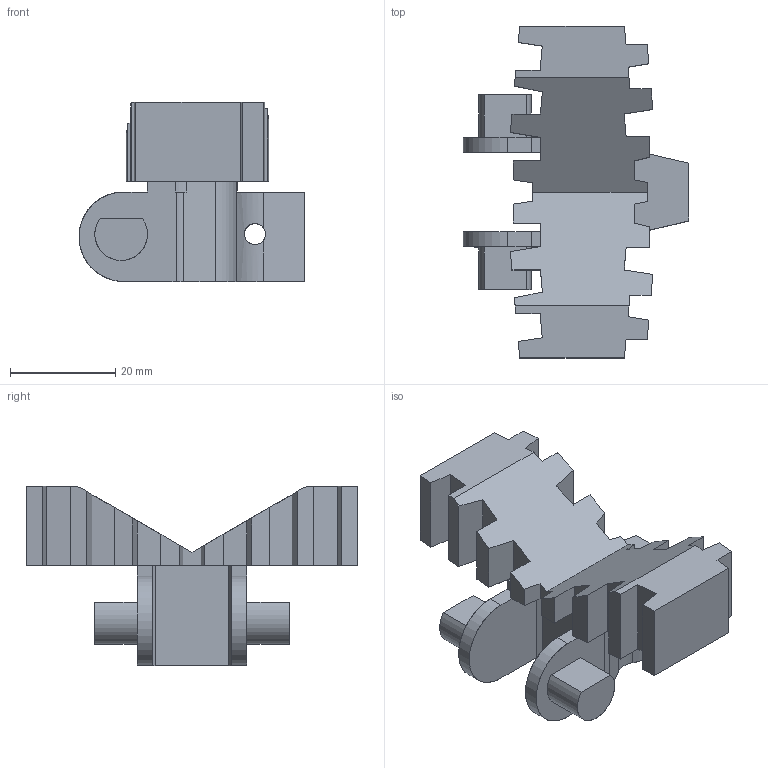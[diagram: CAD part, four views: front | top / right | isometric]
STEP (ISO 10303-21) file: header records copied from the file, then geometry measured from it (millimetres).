
FILE_DESCRIPTION (( 'STEP AP214' ), '1' );
FILE_NAME ('FSCV-5B.STEP', '2011-09-28T08:06:50', ( '.' ), ( '' ), 'SwSTEP 2.0', 'SolidWorks 2010', '' );
FILE_SCHEMA (( 'AUTOMOTIVE_DESIGN' ));
Length unit declared in the file: millimetre
Products named in the file (1): FSCV-5B
Bounding box: 42.9 x 63 x 34 mm (x, y, z)
Surface area: 9803.4 mm2 (no closed solid volume)
Topology: 0 solids, 108 shells, 110 faces, 619 edges, 616 vertices
Faces by surface type: plane 93, cylinder 17
Entity records: 7284 total; most frequent: CARTESIAN_POINT 2709, DIRECTION 831, ORIENTED_EDGE 622, EDGE_CURVE 619, VERTEX_POINT 616, VECTOR 549, LINE 549, AXIS2_PLACEMENT_3D 141
